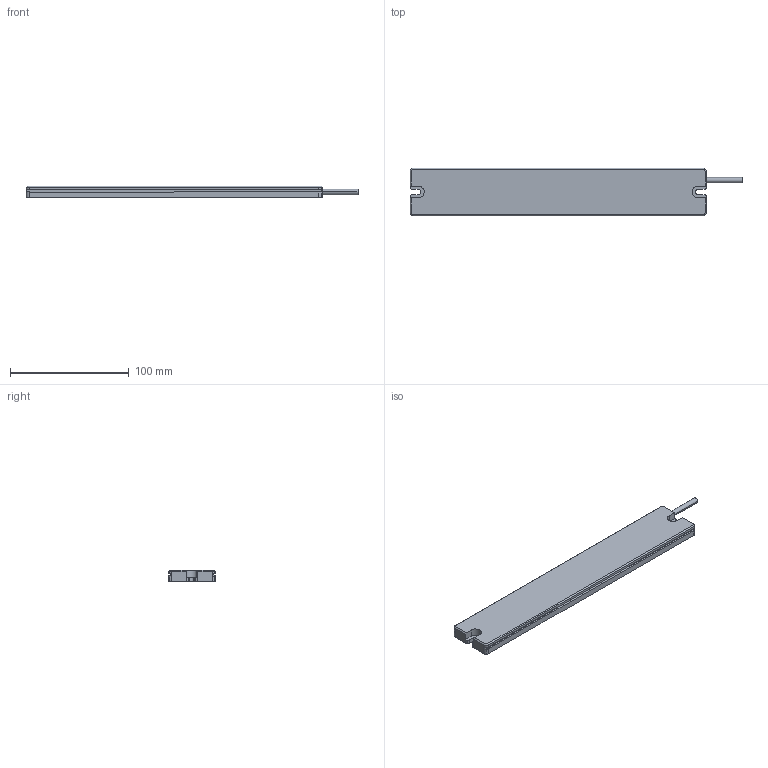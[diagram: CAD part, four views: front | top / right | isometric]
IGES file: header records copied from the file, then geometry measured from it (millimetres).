
Start section: IMSI TurboCAD v14.0
Global section: author: NULL; organization: NULL; date: 20190523.094854; units: millimetre
Bounding box: 280 x 40 x 10 mm (x, y, z)
Surface area: 27506.1 mm2 (no closed solid volume)
Topology: 0 solids, 0 shells, 71 faces, 386 edges, 386 vertices
Faces by surface type: revolution 38, extrusion 33
